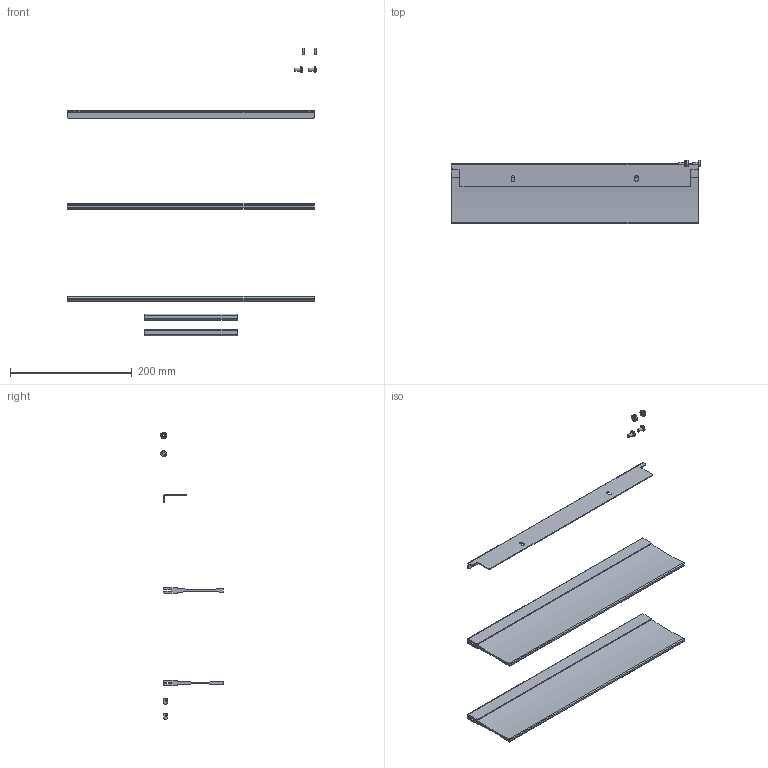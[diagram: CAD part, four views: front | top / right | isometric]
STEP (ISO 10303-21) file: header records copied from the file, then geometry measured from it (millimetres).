
FILE_DESCRIPTION(/* description */ ('BRUSH GROMMET KIT FOR REAR KNOCK-OUT IN ''ES'''),/* implementation_level */ '2;1');
FILE_NAME(/* name */ 'Y:\Inventor\I007XXX\I007397\I007397.stp',/* time_stamp */ '2019-02-04T15:01:40-05:00',/* author */ ('frankd'),/* organization */ ('GLCC'),/* preprocessor_version */ 'ST-DEVELOPER v17',/* originating_system */ 'Autodesk Inventor 2018',/* authorisation */ '');
FILE_SCHEMA (('AUTOMOTIVE_DESIGN { 1 0 10303 214 3 1 1 }'));
Length unit declared in the file: inch
Products named in the file (8): TP42ESBB3100; I007398; 14006785-16.00; H01-068; 10-32NUT; 10/32HXNUT; #4922; X1002x6LG
Assembly tree (11 placements, depth 3):
  TP42ESBB3100
    I007398
    14006785-16.00  x2
    H01-068  x2
    10-32NUT  x2
      10/32HXNUT
      #4922
    X1002x6LG  x2
Bounding box: 410.34 x 103.62 x 472.93 mm (x, y, z)
Volume: 428408.5 mm3; surface area: 248935.4 mm2
Topology: 11 solids, 11 shells, 254 faces, 696 edges, 470 vertices
Faces by surface type: plane 142, cylinder 102, cone 8, sphere 2
Full cylindrical faces by diameter (mm): 3.967 x2, 4.826 x2, 4.953 x2, 9.525 x2
Entity records: 4901 total; most frequent: CARTESIAN_POINT 874, DIRECTION 818, ORIENTED_EDGE 774, EDGE_CURVE 387, AXIS2_PLACEMENT_3D 287, VERTEX_POINT 261, LINE 244, VECTOR 244
